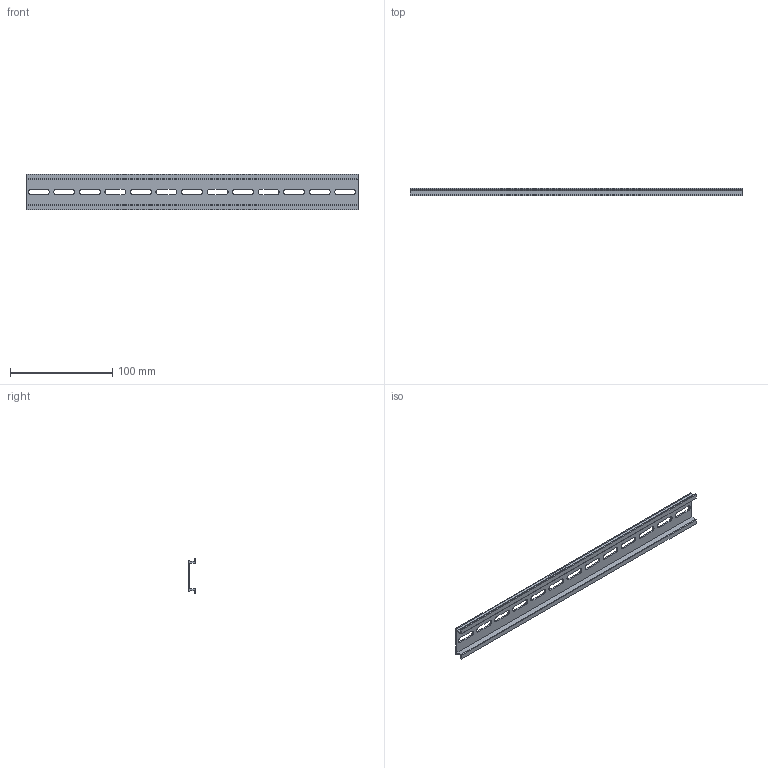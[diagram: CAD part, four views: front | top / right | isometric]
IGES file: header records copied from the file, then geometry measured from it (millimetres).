
Start section: ------------------------------------------------------------------------
Global section: file name: D:\ICADMX\tmp\trans3d_spg\CVICAD02.21224.DIN-RAIL325_7828.igs; native system: spGate; preprocessor: ver12.6.6; author: Unknown; organization: Unknown; date: 200901.142037; units: millimetre
Bounding box: 325 x 7.5 x 35 mm (x, y, z)
Volume: 22944.5 mm3; surface area: 30714.6 mm2
Topology: 1 solids, 1 shells, 72 faces, 210 edges, 140 vertices
Faces by surface type: bspline 72
